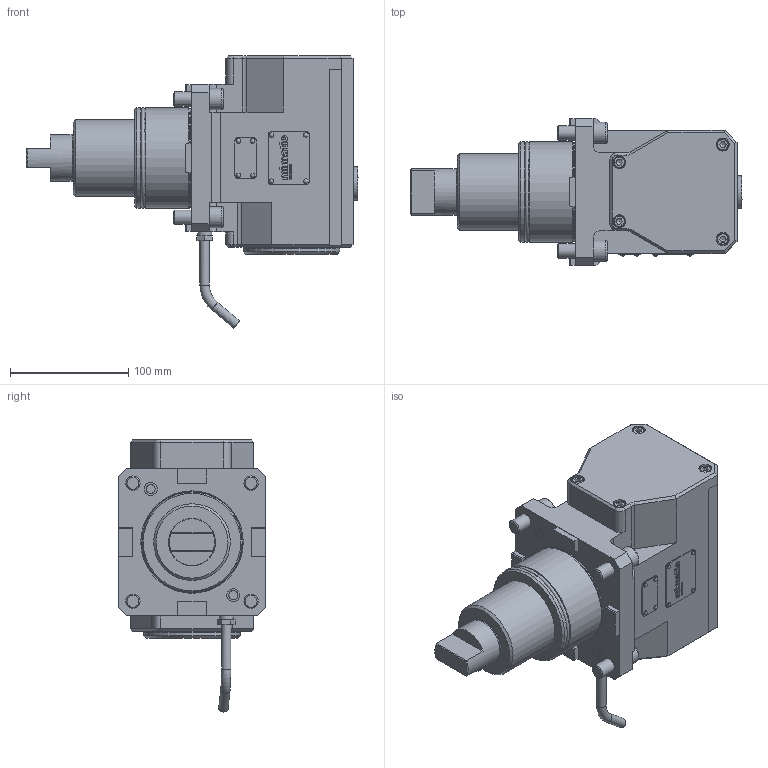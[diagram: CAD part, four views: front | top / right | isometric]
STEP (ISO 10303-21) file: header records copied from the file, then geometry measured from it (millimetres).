
FILE_DESCRIPTION(/* description */ (''),/* implementation_level */ '2;1');
FILE_NAME(/* name */ '198316-UNI',/* time_stamp */ '2022-08-23T14:57:29+02:00',/* author */ (''),/* organization */ (''),/* preprocessor_version */ 'ST-DEVELOPER v16.5',/* originating_system */ 'HiCAD 2017 2201.0 Build 268',/* authorisation */ '');
FILE_SCHEMA (('AUTOMOTIVE_DESIGN { 1 0 10303 214 1 1 1 1 }'));
Length unit declared in the file: millimetre
Products named in the file (2): Root; Teil
Assembly tree (1 placements, depth 2):
  Root
    Teil
Bounding box: 281.2 x 125 x 230.41 mm (x, y, z)
Volume: 2608213.9 mm3; surface area: 162218.4 mm2
Topology: 1 solids, 9 shells, 818 faces, 2035 edges, 1322 vertices
Faces by surface type: plane 516, cylinder 137, cone 70, torus 45, bspline 42, sphere 8
Full cylindrical faces by diameter (mm): 2 x8, 2.2 x8, 6 x2, 7.65 x2, 8 x2, 10 x4, 11 x4, 11.01 x2, 12 x5, 16 x1, 16.4 x1, 18 x4, 28 x1, 39.2 x1, 39.5 x1, 40 x1, 52 x1, 65 x2, 70 x1, 80.3 x2, 81.5 x1, 84.5 x1, 84.9 x2
Entity records: 46451 total; most frequent: CARTESIAN_POINT 8790, DIRECTION 3866, PRESENTATION_STYLE_ASSIGNMENT 3789, COLOUR_RGB 3789, DRAUGHTING_PRE_DEFINED_CURVE_FONT 3788, CURVE_STYLE 3788, OVER_RIDING_STYLED_ITEM 3788, ORIENTED_EDGE 3788
